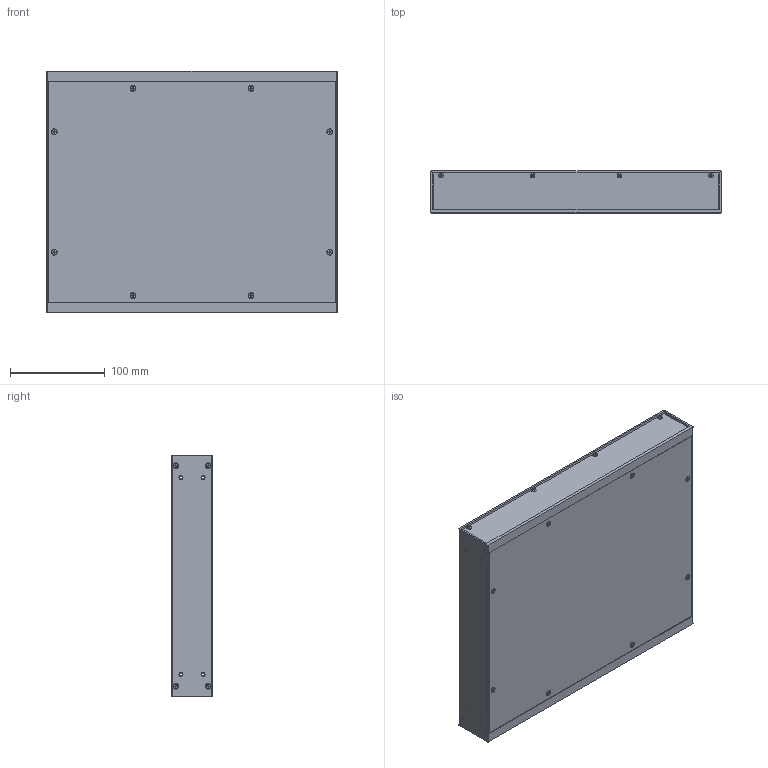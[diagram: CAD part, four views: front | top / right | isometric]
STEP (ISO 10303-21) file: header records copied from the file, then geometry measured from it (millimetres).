
FILE_DESCRIPTION((''),'2;1');
FILE_NAME('SC-2345','2018-05-09T',('dkendric'),(''),'CREO PARAMETRIC BY PTC INC, 2017480','CREO PARAMETRIC BY PTC INC, 2017480','');
FILE_SCHEMA(('AUTOMOTIVE_DESIGN { 1 0 10303 214 1 1 1 1 }'));
Products named in the file (1): SC-2345
Bounding box: 306.32 x 43.94 x 254 mm (x, y, z)
Volume: 432153.8 mm3; surface area: 455822 mm2
Topology: 1 solids, 1 shells, 1598 faces, 4360 edges, 2250 vertices
Faces by surface type: plane 604, bspline 528, cylinder 242, cone 176, sphere 32, torus 16
Entity records: 69014 total; most frequent: CARTESIAN_POINT 22006, ORIENTED_EDGE 7696, DIRECTION 6372, EDGE_CURVE 3848, VERTEX_POINT 2858, VECTOR 2200, LINE 2200, AXIS2_PLACEMENT_3D 2086
